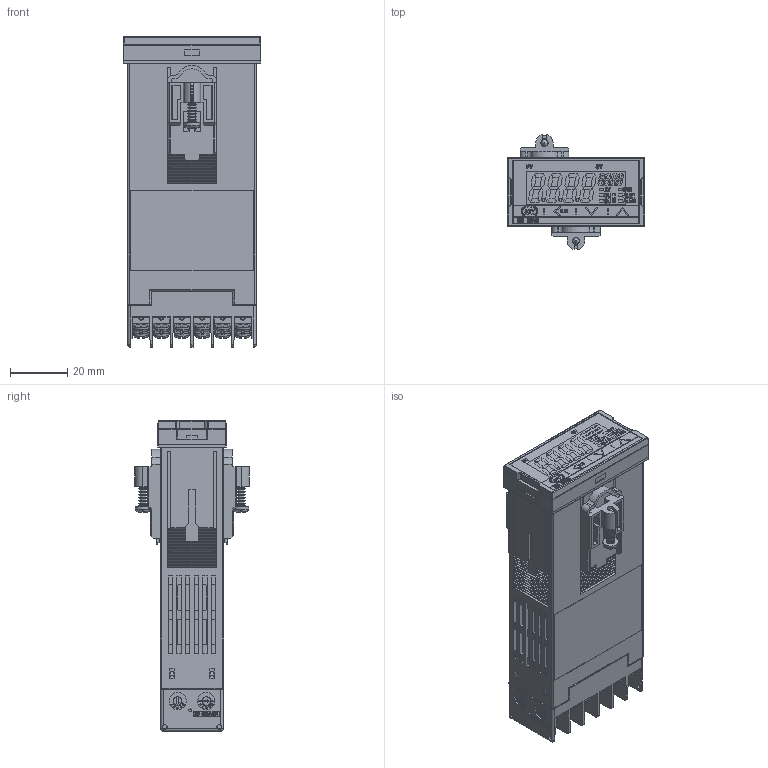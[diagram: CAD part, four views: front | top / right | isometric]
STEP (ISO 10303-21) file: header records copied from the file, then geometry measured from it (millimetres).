
FILE_DESCRIPTION (( 'STEP AP214' ), '1' );
FILE_NAME ('SA200_WEB2.STEP', '2023-02-13T06:30:27', ( '' ), ( '' ), 'SwSTEP 2.0', 'SolidWorks 2021', '' );
FILE_SCHEMA (( 'AUTOMOTIVE_DESIGN' ));
Length unit declared in the file: millimetre
Products named in the file (4): KSA200-513_WEB; SA200(基本設計)_WEB2; SA200取付具Assy_WEB; SA200_WEB2
Assembly tree (4 placements, depth 2):
  SA200_WEB2
    SA200(基本設計)_WEB2
    SA200取付具Assy_WEB  x2
    KSA200-513_WEB
Bounding box: 48 x 40.08 x 108.2 mm (x, y, z)
Volume: 102229.6 mm3; surface area: 29071.3 mm2
Topology: 6 solids, 6 shells, 8916 faces, 25474 edges, 16884 vertices
Faces by surface type: plane 6742, bspline 1093, cylinder 828, cone 173, torus 64, sphere 16
Full cylindrical faces by diameter (mm): 1 x2, 1.5 x22, 1.8 x18, 2.3 x22, 3 x32, 3.45 x12, 5.3 x12, 6 x6
Entity records: 389872 total; most frequent: CARTESIAN_POINT 88909, ORIENTED_EDGE 48042, DIRECTION 37398, EDGE_CURVE 24021, LINE 19032, VECTOR 19032, VERTEX_POINT 16003, AXIS2_PLACEMENT_3D 9183
